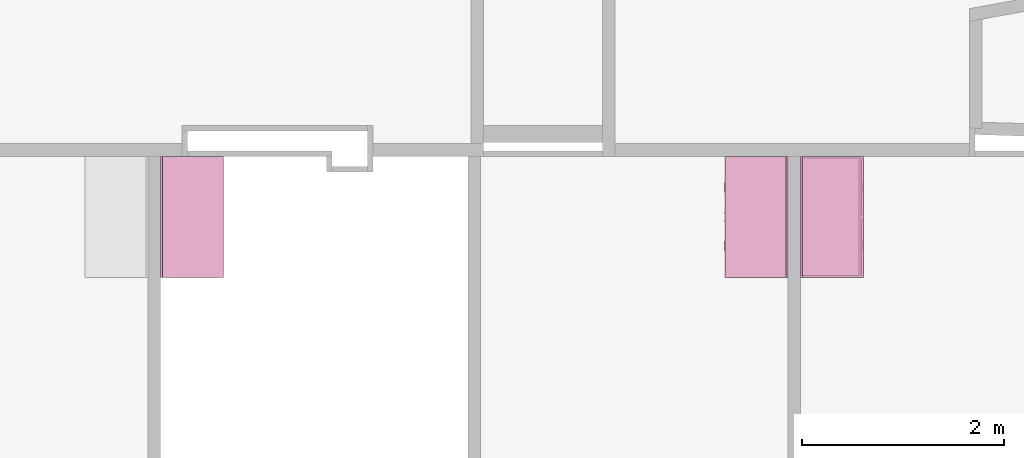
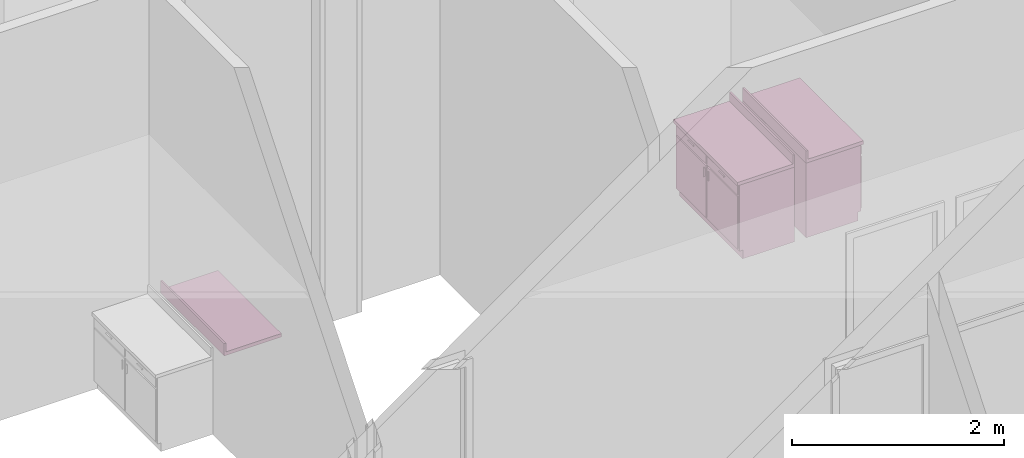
# One storey, part 82 of 87: 5 furnishings, 3 openings.
"""IFC2X3 building model written with IfcOpenShell, lengths in metres."""

import ifcopenshell
import ifcopenshell.guid

model = None  # the IFC model being written
_history = None  # IfcOwnerHistory: only IFC2X3 demands one
_inside = {}  # id of a spatial element -> (the spatial element, [elements in it])
_under = {}  # id of a project, library or spatial element -> (it, [spatial elements below it])
_declared = {}  # id of a project -> (the project, [libraries it declares])
_typed = {}  # id of a type object -> (the type object, [elements of that type])
_made_of = {}  # id of a material, layer set ... -> (it, [elements and type objects made of it])


def new_model(schema):
    """Start an empty IFC model of exactly this schema.

    Asked for "IFC4X3", IfcOpenShell would pick the latest addendum, in which some entities
    have other attributes; the version numbers below select the first issue.
    IFC2X3 requires an IfcOwnerHistory on every rooted entity: one is made here for all.
    """
    global model, _history
    if schema == "IFC4X3":
        model = ifcopenshell.file(schema_version=(4, 3, 0, 0))
    else:
        model = ifcopenshell.file(schema=schema)
    _inside.clear()
    _under.clear()
    _declared.clear()
    _typed.clear()
    _made_of.clear()
    _history = None
    if model.schema == "IFC2X3":
        org = make("IfcOrganization", Name="unknown")
        user = make(
            "IfcPersonAndOrganization",
            ThePerson=make("IfcPerson", FamilyName="unknown"),
            TheOrganization=org,
        )
        app = make(
            "IfcApplication",
            ApplicationDeveloper=org,
            Version="unknown",
            ApplicationFullName="unknown",
            ApplicationIdentifier="unknown",
        )
        _history = make(
            "IfcOwnerHistory",
            OwningUser=user,
            OwningApplication=app,
            ChangeAction="ADDED",
            CreationDate=0,
        )
    return model


def make(cls, **values):
    """One entity of the class cls with the attributes given. An attribute that is None is left unset."""
    return model.create_entity(
        cls, **{name: value for name, value in values.items() if value is not None}
    )


def entity(cls, *values):
    """Any entity or typed value of the class cls, its attributes in the order of the schema. None: left unset."""
    e = model.create_entity(cls)
    for i, value in enumerate(values):
        if value is not None:
            e[i] = value
    return e


def rooted(cls, **values):
    """An entity with a GlobalId (a new one), such as an element, a storey or a relation."""
    return make(cls, GlobalId=ifcopenshell.guid.new(), OwnerHistory=_history, **values)


def si_unit(unit_type, name, prefix=None):
    """IfcSIUnit, for example si_unit("LENGTHUNIT", "METRE", prefix="MILLI")."""
    return make("IfcSIUnit", UnitType=unit_type, Prefix=prefix, Name=name)


def converted_unit(unit_type, name, factor, base, dimensions=None, offset=None):
    """IfcConversionBasedUnit, such as the inch: factor (a typed value) times the base unit."""
    return make(
        "IfcConversionBasedUnit"
        if offset is None
        else "IfcConversionBasedUnitWithOffset",
        ConversionOffset=offset,
        Dimensions=None
        if dimensions is None
        else entity("IfcDimensionalExponents", *dimensions),
        UnitType=unit_type,
        Name=name,
        ConversionFactor=make(
            "IfcMeasureWithUnit", ValueComponent=factor, UnitComponent=base
        ),
    )


def assignment(units):
    """IfcUnitAssignment: the units of a project."""
    return None if units is None else make("IfcUnitAssignment", Units=units)


def point(xyz):
    """IfcCartesianPoint."""
    return None if xyz is None else make("IfcCartesianPoint", Coordinates=xyz)


def direction(xyz):
    """IfcDirection."""
    return None if xyz is None else make("IfcDirection", DirectionRatios=xyz)


def frame(location, z_axis=None, x_axis=None):
    """IfcAxis2Placement3D, a coordinate frame: its origin and axes. An axis left out is left unset."""
    return make(
        "IfcAxis2Placement3D",
        Location=point(location),
        Axis=direction(z_axis),
        RefDirection=direction(x_axis),
    )


def frame_2d(location, x_axis=None):
    """IfcAxis2Placement2D, a coordinate frame in the plane: its origin and x axis."""
    return make(
        "IfcAxis2Placement2D", Location=point(location), RefDirection=direction(x_axis)
    )


def origin():
    """The frame at (0, 0, 0) with its axes left unset."""
    return frame((0.0, 0.0, 0.0))


def place(relative_to, where):
    """IfcLocalPlacement: puts the frame where relative to a parent placement (None: the world)."""
    return make(
        "IfcLocalPlacement", PlacementRelTo=relative_to, RelativePlacement=where
    )


def context(
    kind, dimensions, precision=None, world=None, true_north=None, identifier=None
):
    """IfcGeometricRepresentationContext, for example the 3D "Model" context."""
    return make(
        "IfcGeometricRepresentationContext",
        ContextIdentifier=identifier,
        ContextType=kind,
        CoordinateSpaceDimension=dimensions,
        Precision=precision,
        WorldCoordinateSystem=world,
        TrueNorth=true_north,
    )


def project(units=None, contexts=None):
    """IfcProject with its units and contexts."""
    return rooted(
        "IfcProject",
        Name="project",
        RepresentationContexts=contexts,
        UnitsInContext=assignment(units),
    )


def spatial(cls, under=None, at=None, **own):
    """A site, building, storey or space (cls), placed at a placement, below another one or the project."""
    s = rooted(cls, ObjectPlacement=at, **own)
    if under is not None:
        _under.setdefault(under.id(), (under, []))[1].append(s)
    return s


def polyline(points):
    """IfcPolyline through the points."""
    return make("IfcPolyline", Points=[point(p) for p in points])


def circle_curve(where, radius):
    """IfcCircle in the frame where."""
    return make("IfcCircle", Position=where, Radius=radius)


def parameter(value):
    """IfcParameterValue: where a trimmed curve begins or ends, as a parameter of its basis curve."""
    return model.create_entity("IfcParameterValue", value)


def trimmed(basis, trim1, trim2, sense, master):
    """IfcTrimmedCurve: the piece of a basis curve between two trims."""
    return make(
        "IfcTrimmedCurve",
        BasisCurve=basis,
        Trim1=trim1,
        Trim2=trim2,
        SenseAgreement=sense,
        MasterRepresentation=master,
    )


def segment(curve, same_sense, transition):
    """IfcCompositeCurveSegment."""
    return make(
        "IfcCompositeCurveSegment",
        Transition=transition,
        SameSense=same_sense,
        ParentCurve=curve,
    )


def composite_curve(segments, self_intersect=None):
    """IfcCompositeCurve: segments joined end to end."""
    return make("IfcCompositeCurve", Segments=segments, SelfIntersect=self_intersect)


def outline(outer, holes=None, kind="AREA"):
    """IfcArbitraryClosedProfileDef: a profile drawn as a closed curve; with holes, ...WithVoids."""
    if holes is None:
        return make("IfcArbitraryClosedProfileDef", ProfileType=kind, OuterCurve=outer)
    return make(
        "IfcArbitraryProfileDefWithVoids",
        ProfileType=kind,
        OuterCurve=outer,
        InnerCurves=holes,
    )


def extrude(swept, where, along, depth):
    """IfcExtrudedAreaSolid: the profile swept, set in the frame where, extruded along a direction by depth."""
    return make(
        "IfcExtrudedAreaSolid",
        SweptArea=swept,
        Position=where,
        ExtrudedDirection=direction(along),
        Depth=depth,
    )


def faces_of(points, faces, orient=None, outer=None):
    """IfcFace entities. A face is a list of loops; a loop is a list of indices into points, from 0.

    orient and outer hold one flag for each loop. By default every Orientation is true, the
    first loop of a face is its IfcFaceOuterBound and the others are IfcFaceBound.
    """
    made = []
    for i, loops in enumerate(faces):
        bounds = []
        for j, loop in enumerate(loops):
            is_outer = j == 0 if outer is None else outer[i][j]
            bounds.append(
                make(
                    "IfcFaceOuterBound" if is_outer else "IfcFaceBound",
                    Bound=make("IfcPolyLoop", Polygon=[points[k] for k in loop]),
                    Orientation=True if orient is None else orient[i][j],
                )
            )
        made.append(make("IfcFace", Bounds=bounds))
    return made


def face_set(faces, orient=None, outer=None):
    """The faces of one IfcConnectedFaceSet. surface_model builds it on its shared points."""
    return ("IfcConnectedFaceSet", faces, orient, outer)


def surface_model(cls, points, shells):
    """IfcFaceBasedSurfaceModel or IfcShellBasedSurfaceModel (cls): surfaces that need not close."""
    shared = [point(p) for p in points]
    made = [make(c, CfsFaces=faces_of(shared, fs, o, b)) for c, fs, o, b in shells]
    if cls == "IfcFaceBasedSurfaceModel":
        return make(cls, FbsmFaces=made)
    return make(cls, SbsmBoundary=made)


def shape(context_of_items, identifier, shape_type, items):
    """IfcShapeRepresentation: the items that make up one representation, for example the "Body"."""
    return make(
        "IfcShapeRepresentation",
        ContextOfItems=context_of_items,
        RepresentationIdentifier=identifier,
        RepresentationType=shape_type,
        Items=items,
    )


def source(mapping_origin, context_of_items, identifier, shape_type, items):
    """IfcRepresentationMap: a shape defined once, which mapped items show again and again."""
    return make(
        "IfcRepresentationMap",
        MappingOrigin=mapping_origin,
        MappedRepresentation=shape(context_of_items, identifier, shape_type, items),
    )


def transform(
    local_origin,
    x_axis=None,
    y_axis=None,
    z_axis=None,
    scale=None,
    scale2=None,
    scale3=None,
    uniform=True,
):
    """IfcCartesianTransformationOperator3D, or its non-uniform kind. x_axis, y_axis, z_axis: its Axis1, 2, 3."""
    if uniform:
        return make(
            "IfcCartesianTransformationOperator3D",
            Axis1=direction(x_axis),
            Axis2=direction(y_axis),
            LocalOrigin=point(local_origin),
            Scale=scale,
            Axis3=direction(z_axis),
        )
    return make(
        "IfcCartesianTransformationOperator3DnonUniform",
        Axis1=direction(x_axis),
        Axis2=direction(y_axis),
        LocalOrigin=point(local_origin),
        Scale=scale,
        Axis3=direction(z_axis),
        Scale2=scale2,
        Scale3=scale3,
    )


def mapped(mapping_source, mapping_target):
    """IfcMappedItem: shows the shape of a source again, moved by a transform."""
    return make(
        "IfcMappedItem", MappingSource=mapping_source, MappingTarget=mapping_target
    )


def made_of(thing, what):
    """Note that an element or type object is made of a material, layer set ...; save() writes the relation."""
    if what is not None:
        _made_of.setdefault(what.id(), (what, []))[1].append(thing)
    return thing


def type_object(cls, material=None, **own):
    """A type object (cls), such as IfcWallType, which elements share."""
    return made_of(rooted(cls, **own), material)


def type_shapes(of_type, sources):
    """Give a type object the sources (RepresentationMaps) that its elements show as mapped items."""
    of_type.RepresentationMaps = sources


def element(
    cls,
    number,
    at=None,
    inside=None,
    cuts=None,
    type_object=None,
    material=None,
    context=None,
    identifier="Body",
    shape_type=None,
    held_by="IfcProductDefinitionShape",
    body=None,
    shapes=None,
    **own,
):
    """One element of the class cls, such as IfcWall. Its Tag is "e" and its number.

    at: its placement. inside: the storey or other place that contains it. cuts: it is an
    opening in that element (IfcRelVoidsElement). A single representation is given by context,
    identifier, shape_type and body (its items); several are given by shapes. held_by: the class
    of the entity that holds the representations. save() writes the other relations.
    """
    e = rooted(cls, Tag="e%d" % number, ObjectPlacement=at, **own)
    if body is not None:
        shapes = [shape(context, identifier, shape_type, body)]
    if shapes is not None:
        e.Representation = make(held_by, Representations=shapes)
    if inside is not None:
        _inside.setdefault(inside.id(), (inside, []))[1].append(e)
    if cuts is not None:
        rooted(
            "IfcRelVoidsElement", RelatingBuildingElement=cuts, RelatedOpeningElement=e
        )
    if type_object is not None:
        _typed.setdefault(type_object.id(), (type_object, []))[1].append(e)
    return made_of(e, material)


def aggregate(whole, parts):
    """IfcRelAggregates: a whole, such as a stair, and the parts it consists of."""
    return rooted("IfcRelAggregates", RelatingObject=whole, RelatedObjects=parts)


def save(model, path):
    """Write the relations noted so far, then the file.

    IfcRelAggregates (storeys below a building ...), IfcRelContainedInSpatialStructure (elements
    in a storey), IfcRelDefinesByType, IfcRelAssociatesMaterial and IfcRelDeclares: one each for
    every whole, place, type object, material and project.
    """
    for whole, parts in _under.values():
        aggregate(whole, parts)
    for where, things in _inside.values():
        rooted(
            "IfcRelContainedInSpatialStructure",
            RelatedElements=things,
            RelatingStructure=where,
        )
    for kind, things in _typed.values():
        rooted("IfcRelDefinesByType", RelatedObjects=things, RelatingType=kind)
    for what, things in _made_of.values():
        rooted("IfcRelAssociatesMaterial", RelatedObjects=things, RelatingMaterial=what)
    for by, libraries in _declared.values():
        rooted("IfcRelDeclares", RelatingContext=by, RelatedDefinitions=libraries)
    model.write(path)


model = new_model("IFC2X3")

# Units and contexts
model_context = context("Model", 3, precision=1e-09, world=origin())
plan_context = context("Plan", 3, precision=1e-09, world=origin())
ifc_project = project(units=[si_unit("LENGTHUNIT", "METRE"), si_unit("AREAUNIT", "SQUARE_METRE"), si_unit("VOLUMEUNIT", "CUBIC_METRE"), converted_unit("PLANEANGLEUNIT", "DEGREE", entity("IfcRatioMeasure", 0.01745329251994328), si_unit("PLANEANGLEUNIT", "RADIAN"), dimensions=[0, 0, 0, 0, 0, 0, 0]), si_unit("TIMEUNIT", "SECOND")], contexts=[model_context, plan_context])

# Site, building, storey, space
site_placement = place(None, origin())
site = spatial("IfcSite", under=ifc_project, at=site_placement, Name="Default", CompositionType="ELEMENT")
building_placement = place(site_placement, origin())
building = spatial("IfcBuilding", under=site, at=building_placement, CompositionType="ELEMENT")
storey_placement = place(building_placement, origin())
storey = spatial("IfcBuildingStorey", under=building, at=storey_placement, Name="First Floor", CompositionType="ELEMENT", Elevation=-3.531500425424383e-13)
space_1_placement = place(storey_placement, origin())
space_1 = spatial("IfcSpace", under=storey, at=space_1_placement, Name="1D07", CompositionType="ELEMENT", InteriorOrExteriorSpace="INTERNAL")

# Furnishing
furniture_type_1 = type_object("IfcFurnitureType", Name="1200mm", AssemblyPlace="NOTDEFINED")
shared_shape_1 = source(origin(), model_context, "Body", "SurfaceModel", [
    surface_model("IfcFaceBasedSurfaceModel", [(1.180949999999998, 0.04445000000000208, 0.86000000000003), (1.180949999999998, 0.04445000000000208, 0.09999999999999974), (0.01905000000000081, 0.04445000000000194, 0.09999999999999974), (0.01905000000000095, 0.04445000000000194, 0.86000000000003), (1.2, 0.02540000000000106, 0.8600000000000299), (0.0, 0.02540000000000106, 0.8600000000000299), (1.2, 0.02540000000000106, 0.09999999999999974), (0.0, 0.02540000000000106, 0.0999999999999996), (0.01905000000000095, 0.6063499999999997, 0.86000000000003), (0.01905000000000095, 0.6063499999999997, 0.09999999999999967), (0.01905000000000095, 0.06040000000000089, 0.09999999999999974), (0.0, 0.6254000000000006, 0.8600000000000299), (0.0, 0.6254000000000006, 0.0), (0.0, 0.06040000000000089, 0.0), (0.0, 0.06040000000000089, 0.09999999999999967), (1.180949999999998, 0.6063499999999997, 0.86000000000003), (1.180949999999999, 0.6063499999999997, 0.09999999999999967), (1.2, 0.6254000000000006, 0.8600000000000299), (1.2, 0.6254000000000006, 0.0), (1.180949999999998, 0.06040000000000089, 0.09999999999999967), (1.2, 0.06040000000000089, 0.09999999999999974), (1.2, 0.06040000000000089, 0.0), (0.3603250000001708, 0.0, 0.8155500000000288), (0.3603250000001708, 0.0, 0.8028500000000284), (0.258725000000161, 0.0, 0.8028500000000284), (0.258725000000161, 0.0, 0.8155500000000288), (0.9412750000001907, 0.0, 0.8155500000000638), (0.9412750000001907, 0.0, 0.8028500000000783), (0.8396750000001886, 0.0, 0.8028500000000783), (0.8396750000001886, 0.0, 0.8155500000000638), (0.5650750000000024, 0.0, 0.6822000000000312), (0.5650750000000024, 0.0, 0.5806000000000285), (0.5523750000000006, 0.0, 0.5806000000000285), (0.5523750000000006, 0.0, 0.6822000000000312), (0.6476249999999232, 0.0, 0.6822000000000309), (0.6476249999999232, 0.0, 0.5806000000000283), (0.6349249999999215, 0.0, 0.5806000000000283), (0.6349249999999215, 0.0, 0.6822000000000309), (0.3603250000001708, 0.01270000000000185, 0.8155500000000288), (0.3603250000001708, 0.01270000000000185, 0.8028500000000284), (0.2587250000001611, 0.01270000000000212, 0.8028500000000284), (0.2587250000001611, 0.01270000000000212, 0.8155500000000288), (0.9412750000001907, 0.01269999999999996, 0.8155500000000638), (0.9412750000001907, 0.01269999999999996, 0.8028500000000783), (0.8396750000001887, 0.01270000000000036, 0.8028500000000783), (0.8396750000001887, 0.01270000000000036, 0.8155500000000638), (0.5650750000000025, 0.01270000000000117, 0.6822000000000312), (0.5650750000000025, 0.01270000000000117, 0.5806000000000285), (0.5523750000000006, 0.01270000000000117, 0.5806000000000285), (0.5523750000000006, 0.01270000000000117, 0.6822000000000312), (0.6476249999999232, 0.0127000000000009, 0.6822000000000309), (0.6476249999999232, 0.0127000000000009, 0.5806000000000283), (0.6349249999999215, 0.0127000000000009, 0.5806000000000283), (0.6349249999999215, 0.0127000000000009, 0.6822000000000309), (0.5904749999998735, 0.01270000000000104, 0.8409500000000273), (0.5904749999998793, 0.01270000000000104, 0.7393500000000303), (0.01905000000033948, 0.0127000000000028, 0.7393500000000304), (0.01905000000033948, 0.0127000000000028, 0.8409500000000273), (1.180950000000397, 0.01269999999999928, 0.8409500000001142), (1.180950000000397, 0.01269999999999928, 0.7393500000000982), (0.6095249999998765, 0.01270000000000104, 0.7393500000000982), (0.6095249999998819, 0.01270000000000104, 0.8409500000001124), (0.5904749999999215, 0.01270000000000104, 0.7203000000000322), (0.5904749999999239, 0.01270000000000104, 0.1190499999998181), (0.01905000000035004, 0.0127000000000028, 0.1190499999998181), (0.01905000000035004, 0.0127000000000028, 0.7203000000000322), (1.180950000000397, 0.01269999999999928, 0.7203000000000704), (1.180950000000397, 0.01269999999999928, 0.1190499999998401), (0.6095249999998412, 0.01270000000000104, 0.1190499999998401), (0.6095249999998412, 0.01270000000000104, 0.7203000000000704), (0.5904749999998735, 0.02540000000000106, 0.8409500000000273), (0.5904749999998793, 0.02540000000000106, 0.7393500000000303), (0.01905000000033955, 0.02540000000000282, 0.7393500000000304), (0.01905000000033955, 0.02540000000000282, 0.8409500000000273), (1.180950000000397, 0.02539999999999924, 0.8409500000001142), (1.180950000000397, 0.02539999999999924, 0.7393500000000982), (0.6095249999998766, 0.025400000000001, 0.7393500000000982), (0.6095249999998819, 0.025400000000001, 0.8409500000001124), (0.5904749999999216, 0.02540000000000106, 0.7203000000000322), (0.5904749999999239, 0.02540000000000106, 0.1190499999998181), (0.01905000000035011, 0.02540000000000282, 0.1190499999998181), (0.01905000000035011, 0.02540000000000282, 0.7203000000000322), (1.180950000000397, 0.02539999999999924, 0.7203000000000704), (1.180950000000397, 0.02539999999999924, 0.1190499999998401), (0.6095249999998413, 0.025400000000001, 0.1190499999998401), (0.6095249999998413, 0.025400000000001, 0.7203000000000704), (1.180949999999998, 0.6063499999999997, 0.1190499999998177), (1.180949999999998, 0.04445000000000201, 0.1190499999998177), (0.01905000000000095, 0.04445000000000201, 0.1190499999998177), (0.01905000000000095, 0.6063499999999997, 0.1190499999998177), (1.180949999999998, 0.6063499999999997, 0.09999999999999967), (1.180949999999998, 0.04445000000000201, 0.09999999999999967), (0.01905000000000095, 0.04445000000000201, 0.09999999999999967), (0.01905000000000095, 0.6063499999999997, 0.09999999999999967)], [face_set([[[0, 1, 2, 3]], [[0, 4, 5, 3]], [[4, 6, 7, 5]], [[2, 1, 6, 7]], [[3, 8, 9, 10, 2]], [[5, 11, 8, 3]], [[7, 5, 11, 12, 13, 14]], [[2, 7, 14, 10]], [[8, 15, 16, 9]], [[11, 17, 15, 8]], [[12, 11, 17, 18]], [[1, 19, 16, 15, 0]], [[0, 15, 17, 4]], [[4, 6, 20, 21, 18, 17]], [[6, 1, 19, 20]], [[10, 9, 16, 19]], [[18, 21, 13, 12]], [[13, 14, 10, 19, 20, 21]]]), face_set([[[22, 23, 24, 25]], [[26, 27, 28, 29]], [[30, 31, 32, 33]], [[34, 35, 36, 37]], [[38, 39, 40, 41]], [[42, 43, 44, 45]], [[46, 47, 48, 49]], [[50, 51, 52, 53]], [[25, 41, 38, 22]], [[24, 40, 41, 25]], [[23, 24, 40, 39]], [[22, 23, 39, 38]], [[29, 45, 42, 26]], [[28, 44, 45, 29]], [[27, 28, 44, 43]], [[26, 27, 43, 42]], [[33, 49, 46, 30]], [[32, 48, 49, 33]], [[31, 32, 48, 47]], [[30, 31, 47, 46]], [[37, 53, 50, 34]], [[36, 52, 53, 37]], [[35, 36, 52, 51]], [[34, 35, 51, 50]]]), face_set([[[54, 55, 56, 57]], [[58, 59, 60, 61]], [[62, 63, 64, 65]], [[66, 67, 68, 69]], [[70, 71, 72, 73]], [[74, 75, 76, 77]], [[78, 79, 80, 81]], [[82, 83, 84, 85]], [[57, 73, 70, 54]], [[56, 57, 73, 72]], [[55, 56, 72, 71]], [[54, 55, 71, 70]], [[61, 77, 74, 58]], [[60, 76, 77, 61]], [[59, 60, 76, 75]], [[58, 59, 75, 74]], [[65, 81, 78, 62]], [[64, 65, 81, 80]], [[63, 64, 80, 79]], [[62, 63, 79, 78]], [[69, 85, 82, 66]], [[68, 84, 85, 69]], [[67, 68, 84, 83]], [[66, 67, 83, 82]]]), face_set([[[86, 87, 88, 89]], [[90, 91, 92, 93]], [[89, 86, 90, 93]], [[88, 89, 93, 92]], [[87, 91, 92, 88]], [[86, 87, 91, 90]]])]),
])
type_shapes(furniture_type_1, [shared_shape_1])
furnishing_1_placement = place(space_1_placement, frame((-28.46084908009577, 43.50599999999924, 0.0), z_axis=(0.0, 0.0, 1.0), x_axis=(0.0, 1.0, 0.0)))
element("IfcFurnishingElement", 1, at=furnishing_1_placement, inside=space_1, type_object=furniture_type_1, Name="M_Base Cabinet-Double Door & 2 Drawer:1200mm:1200mm", ObjectType="1200mm", context=model_context, shape_type="MappedRepresentation", body=[
    mapped(shared_shape_1, transform((0.0, 0.0, 0.0), scale=1.0)),
])

# Space
space_2_placement = place(storey_placement, origin())
space_2 = spatial("IfcSpace", under=storey, at=space_2_placement, Name="1D09", CompositionType="ELEMENT", InteriorOrExteriorSpace="INTERNAL")

# Furnishing
furniture_type_2 = type_object("IfcFurnitureType", Name="1200mm", AssemblyPlace="NOTDEFINED")
shared_shape_2 = source(origin(), model_context, "Body", "SurfaceModel", [
    surface_model("IfcFaceBasedSurfaceModel", [(1.180949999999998, 0.5809499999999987, 0.8600000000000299), (0.01905000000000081, 0.5809499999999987, 0.8600000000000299), (0.01905000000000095, 0.5809499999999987, 0.09999999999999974), (1.180949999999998, 0.5809499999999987, 0.09999999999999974), (0.0, 0.5999999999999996, 0.8600000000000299), (1.2, 0.5999999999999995, 0.8600000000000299), (0.0, 0.5999999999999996, 0.09999999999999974), (1.2, 0.5999999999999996, 0.0999999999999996), (0.01905000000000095, 0.5649999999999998, 0.09999999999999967), (0.01905000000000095, 0.019050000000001, 0.09999999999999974), (0.01905000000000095, 0.019050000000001, 0.8600000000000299), (0.0, 0.0, 0.8600000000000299), (0.0, 0.0, 0.0), (0.0, 0.5649999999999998, 0.0), (0.0, 0.5649999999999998, 0.09999999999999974), (1.180949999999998, 0.01905000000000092, 0.09999999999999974), (1.180949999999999, 0.01905000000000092, 0.8600000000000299), (1.2, 0.0, 0.8600000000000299), (1.2, 0.0, 0.0), (1.180949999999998, 0.5649999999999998, 0.09999999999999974), (1.2, 0.5649999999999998, 0.0), (1.2, 0.5649999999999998, 0.0999999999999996), (0.3603250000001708, 0.6253999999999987, 0.8155500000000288), (0.258725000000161, 0.6253999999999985, 0.8155500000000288), (0.2587250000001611, 0.6253999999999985, 0.8028500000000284), (0.3603250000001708, 0.6253999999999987, 0.8028500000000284), (0.9412750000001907, 0.6254000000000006, 0.8155500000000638), (0.8396750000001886, 0.6254000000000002, 0.8155500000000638), (0.8396750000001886, 0.6254000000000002, 0.8028500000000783), (0.9412750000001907, 0.6254000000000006, 0.8028500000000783), (0.5650750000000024, 0.6253999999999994, 0.6822000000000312), (0.5523750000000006, 0.6253999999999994, 0.6822000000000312), (0.5523750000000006, 0.6253999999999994, 0.5806000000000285), (0.5650750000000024, 0.6253999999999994, 0.5806000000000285), (0.6476249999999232, 0.6253999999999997, 0.6822000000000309), (0.6349249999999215, 0.6253999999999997, 0.6822000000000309), (0.6349249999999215, 0.6253999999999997, 0.5806000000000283), (0.6476249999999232, 0.6253999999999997, 0.5806000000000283), (0.3603250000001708, 0.6126999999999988, 0.8155500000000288), (0.2587250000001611, 0.6126999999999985, 0.8155500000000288), (0.2587250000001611, 0.6126999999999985, 0.8028500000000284), (0.3603250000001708, 0.6126999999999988, 0.8028500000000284), (0.9412750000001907, 0.6127000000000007, 0.8155500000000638), (0.8396750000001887, 0.6127000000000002, 0.8155500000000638), (0.8396750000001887, 0.6127000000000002, 0.8028500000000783), (0.9412750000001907, 0.6127000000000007, 0.8028500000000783), (0.5650750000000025, 0.6126999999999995, 0.6822000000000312), (0.5523750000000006, 0.6126999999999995, 0.6822000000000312), (0.5523750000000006, 0.6126999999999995, 0.5806000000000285), (0.5650750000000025, 0.6126999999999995, 0.5806000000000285), (0.6476249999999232, 0.6126999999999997, 0.6822000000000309), (0.6349249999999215, 0.6126999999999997, 0.6822000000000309), (0.6349249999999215, 0.6126999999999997, 0.5806000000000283), (0.6476249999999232, 0.6126999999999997, 0.5806000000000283), (0.5904749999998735, 0.6126999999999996, 0.8409500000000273), (0.01905000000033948, 0.6126999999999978, 0.8409500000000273), (0.01905000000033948, 0.6126999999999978, 0.7393500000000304), (0.5904749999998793, 0.6126999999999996, 0.7393500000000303), (1.180950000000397, 0.6127000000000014, 0.8409500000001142), (0.6095249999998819, 0.6126999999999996, 0.8409500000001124), (0.6095249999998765, 0.6126999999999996, 0.7393500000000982), (1.180950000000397, 0.6127000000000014, 0.7393500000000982), (0.5904749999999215, 0.6126999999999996, 0.7203000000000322), (0.01905000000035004, 0.6126999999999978, 0.7203000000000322), (0.01905000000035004, 0.6126999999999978, 0.1190499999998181), (0.5904749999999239, 0.6126999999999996, 0.1190499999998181), (1.180950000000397, 0.6127000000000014, 0.7203000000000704), (0.6095249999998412, 0.6126999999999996, 0.7203000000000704), (0.6095249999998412, 0.6126999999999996, 0.1190499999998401), (1.180950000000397, 0.6127000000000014, 0.1190499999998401), (0.5904749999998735, 0.5999999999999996, 0.8409500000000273), (0.01905000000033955, 0.5999999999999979, 0.8409500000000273), (0.01905000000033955, 0.5999999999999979, 0.7393500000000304), (0.5904749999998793, 0.5999999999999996, 0.7393500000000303), (1.180950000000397, 0.6000000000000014, 0.8409500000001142), (0.6095249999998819, 0.5999999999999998, 0.8409500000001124), (0.6095249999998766, 0.5999999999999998, 0.7393500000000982), (1.180950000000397, 0.6000000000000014, 0.7393500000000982), (0.5904749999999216, 0.5999999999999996, 0.7203000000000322), (0.01905000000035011, 0.5999999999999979, 0.7203000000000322), (0.01905000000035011, 0.5999999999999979, 0.1190499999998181), (0.5904749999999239, 0.5999999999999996, 0.1190499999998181), (1.180950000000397, 0.6000000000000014, 0.7203000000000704), (0.6095249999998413, 0.5999999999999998, 0.7203000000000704), (0.6095249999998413, 0.5999999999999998, 0.1190499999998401), (1.180950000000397, 0.6000000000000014, 0.1190499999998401), (1.180949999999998, 0.019050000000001, 0.1190499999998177), (0.01905000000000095, 0.019050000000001, 0.1190499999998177), (0.01905000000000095, 0.5809499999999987, 0.1190499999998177), (1.180949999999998, 0.5809499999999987, 0.1190499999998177), (1.180949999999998, 0.01905000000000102, 0.09999999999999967), (0.01905000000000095, 0.019050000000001, 0.09999999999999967), (0.01905000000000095, 0.5809499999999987, 0.09999999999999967), (1.180949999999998, 0.5809499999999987, 0.09999999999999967)], [face_set([[[0, 1, 2, 3]], [[0, 1, 4, 5]], [[5, 4, 6, 7]], [[2, 6, 7, 3]], [[1, 2, 8, 9, 10]], [[4, 1, 10, 11]], [[6, 4, 11, 12, 13, 14]], [[2, 8, 14, 6]], [[10, 9, 15, 16]], [[11, 10, 16, 17]], [[12, 18, 17, 11]], [[3, 0, 16, 15, 19]], [[0, 5, 17, 16]], [[5, 17, 18, 20, 21, 7]], [[7, 21, 19, 3]], [[8, 19, 15, 9]], [[18, 12, 13, 20]], [[13, 20, 21, 19, 8, 14]]]), face_set([[[22, 23, 24, 25]], [[26, 27, 28, 29]], [[30, 31, 32, 33]], [[34, 35, 36, 37]], [[38, 39, 40, 41]], [[42, 43, 44, 45]], [[46, 47, 48, 49]], [[50, 51, 52, 53]], [[23, 22, 38, 39]], [[24, 23, 39, 40]], [[25, 41, 40, 24]], [[22, 38, 41, 25]], [[27, 26, 42, 43]], [[28, 27, 43, 44]], [[29, 45, 44, 28]], [[26, 42, 45, 29]], [[31, 30, 46, 47]], [[32, 31, 47, 48]], [[33, 49, 48, 32]], [[30, 46, 49, 33]], [[35, 34, 50, 51]], [[36, 35, 51, 52]], [[37, 53, 52, 36]], [[34, 50, 53, 37]]]), face_set([[[54, 55, 56, 57]], [[58, 59, 60, 61]], [[62, 63, 64, 65]], [[66, 67, 68, 69]], [[70, 71, 72, 73]], [[74, 75, 76, 77]], [[78, 79, 80, 81]], [[82, 83, 84, 85]], [[55, 54, 70, 71]], [[56, 72, 71, 55]], [[57, 73, 72, 56]], [[54, 70, 73, 57]], [[59, 58, 74, 75]], [[60, 59, 75, 76]], [[61, 77, 76, 60]], [[58, 74, 77, 61]], [[63, 62, 78, 79]], [[64, 80, 79, 63]], [[65, 81, 80, 64]], [[62, 78, 81, 65]], [[67, 66, 82, 83]], [[68, 67, 83, 84]], [[69, 85, 84, 68]], [[66, 82, 85, 69]]]), face_set([[[86, 87, 88, 89]], [[90, 91, 92, 93]], [[87, 91, 90, 86]], [[88, 92, 91, 87]], [[89, 88, 92, 93]], [[86, 90, 93, 89]]])]),
])
type_shapes(furniture_type_2, [shared_shape_2])
furnishing_2_placement = place(space_2_placement, frame((-29.20975091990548, 43.50599999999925, 0.0), z_axis=(0.0, 0.0, 1.0), x_axis=(0.0, 1.0, 0.0)))
element("IfcFurnishingElement", 2, at=furnishing_2_placement, inside=space_2, type_object=furniture_type_2, Name="M_Base Cabinet-Double Door & 2 Drawer:1200mm:1200mm", ObjectType="1200mm", context=model_context, shape_type="MappedRepresentation", body=[
    mapped(shared_shape_2, transform((0.0, 0.0, 0.0), scale=1.0)),
])

# Space
space_3_placement = place(storey_placement, origin())
space_3 = spatial("IfcSpace", under=storey, at=space_3_placement, Name="1D11", CompositionType="ELEMENT", InteriorOrExteriorSpace="INTERNAL")

# Furnishing, opening
furniture_type_3 = type_object("IfcFurnitureType", Name="600mm Depth", AssemblyPlace="NOTDEFINED")
shared_shape_3 = source(origin(), model_context, "Body", "SweptSolid", [
    extrude(outline(polyline([(-0.0605333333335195, -0.2146833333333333), (0.08106666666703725, -0.2146833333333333), (0.08106666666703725, -0.1956333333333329), (-0.02053333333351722, -0.1956333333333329), (-0.02053333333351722, 0.4103166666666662), (-0.0605333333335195, 0.4103166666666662), (-0.0605333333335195, -0.2146833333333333)])), frame((-1.200462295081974, -0.2146833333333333, 0.920533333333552), z_axis=(1.0, 0.0, 0.0), x_axis=(0.0, 0.0, 1.0)), (0.0, 0.0, 1.0), 1.200000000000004),
])
type_shapes(furniture_type_3, [shared_shape_3])
furnishing_3_placement = place(space_3_placement, frame((-35.42600000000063, 44.70646229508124, 0.0), z_axis=(0.0, 0.0, 1.0), x_axis=(0.0, 1.0, 0.0)))
furnishing_3 = element("IfcFurnishingElement", 3, at=furnishing_3_placement, inside=space_3, type_object=furniture_type_3, Name="M_Counter Top w Sink Hole:600mm Depth:600mm Depth", ObjectType="600mm Depth", context=model_context, shape_type="MappedRepresentation", body=[
    mapped(shared_shape_3, transform((0.0, 0.0, 0.0), scale=1.0)),
])
opening_1_placement = place(space_3_placement, frame((-35.42600000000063, 44.70646229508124, 0.0), z_axis=(0.0, 0.0, 1.0), x_axis=(0.0, 1.0, 0.0)))
element("IfcOpeningElement", 4, at=opening_1_placement, cuts=furnishing_3, Name="M_Counter Top w Sink Hole:600mm Depth:600mm Depth:1", ObjectType="Opening", context=model_context, shape_type="SweptSolid", body=[
    extrude(outline(composite_curve([segment(polyline([(-0.255399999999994, -0.2083292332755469), (0.2554000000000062, -0.2083292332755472)]), True, "CONTINUOUS"), segment(trimmed(circle_curve(frame_2d((0.2554000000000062, -0.1575292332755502), x_axis=(-1.0, 0.0)), 0.05079999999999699), [parameter(89.99999999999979)], [parameter(180.0000000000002)], True, "PARAMETER"), True, "CONTINUOUS"), segment(polyline([(0.3062000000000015, -0.1575292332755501), (0.3062000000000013, 0.1575292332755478)]), True, "CONTINUOUS"), segment(trimmed(circle_curve(frame_2d((0.2554000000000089, 0.1575292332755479), x_axis=(-1.0, 0.0)), 0.0507999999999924), [parameter(179.9999999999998)], [parameter(269.9999999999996)], True, "PARAMETER"), True, "CONTINUOUS"), segment(polyline([(0.2554000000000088, 0.2083292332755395), (-0.2554000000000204, 0.2083292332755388)]), True, "CONTINUOUS"), segment(trimmed(circle_curve(frame_2d((-0.2554000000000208, 0.1575292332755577), x_axis=(-1.0, 0.0)), 0.05079999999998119), [parameter(269.9999999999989)], [parameter(359.9999999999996)], True, "PARAMETER"), True, "CONTINUOUS"), segment(polyline([(-0.3062000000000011, 0.1575292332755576), (-0.306200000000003, -0.1575292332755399)]), True, "CONTINUOUS"), segment(trimmed(circle_curve(frame_2d((-0.2553999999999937, -0.1575292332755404), x_axis=(-1.0, 0.0)), 0.05080000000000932), [parameter(359.9999999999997)], [parameter(90.00000000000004)], True, "PARAMETER"), True, "CONTINUOUS")], self_intersect=False)), frame((-0.3653589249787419, 0.6004622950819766, 0.8600000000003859), z_axis=(0.0, 0.0, 1.0), x_axis=(0.0, 1.0, 0.0)), (0.0, 0.0, 1.0), 0.04000000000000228),
])

furniture_type_4 = type_object("IfcFurnitureType", Name="600mm Depth", AssemblyPlace="NOTDEFINED")
shared_shape_4 = source(origin(), model_context, "Body", "SweptSolid", [
    extrude(outline(polyline([(-0.0605333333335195, -0.2146833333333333), (0.08106666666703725, -0.2146833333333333), (0.08106666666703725, -0.1956333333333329), (-0.02053333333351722, -0.1956333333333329), (-0.02053333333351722, 0.4103166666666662), (-0.0605333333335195, 0.4103166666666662), (-0.0605333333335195, -0.2146833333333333)])), frame((-1.200462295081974, -0.2146833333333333, 0.920533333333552), z_axis=(1.0, 0.0, 0.0), x_axis=(0.0, 0.0, 1.0)), (0.0, 0.0, 1.0), 1.200000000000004),
])
type_shapes(furniture_type_4, [shared_shape_4])
furnishing_4_placement = place(space_1_placement, frame((-29.08600000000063, 44.70646229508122, 0.0), z_axis=(0.0, 0.0, 1.0), x_axis=(0.0, 1.0, 0.0)))
furnishing_4 = element("IfcFurnishingElement", 5, at=furnishing_4_placement, inside=space_1, type_object=furniture_type_4, Name="M_Counter Top w Sink Hole:600mm Depth:600mm Depth", ObjectType="600mm Depth", context=model_context, shape_type="MappedRepresentation", body=[
    mapped(shared_shape_4, transform((0.0, 0.0, 0.0), scale=1.0)),
])
opening_2_placement = place(space_1_placement, frame((-29.08600000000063, 44.70646229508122, 0.0), z_axis=(0.0, 0.0, 1.0), x_axis=(0.0, 1.0, 0.0)))
element("IfcOpeningElement", 6, at=opening_2_placement, cuts=furnishing_4, Name="M_Counter Top w Sink Hole:600mm Depth:600mm Depth:1", ObjectType="Opening", context=model_context, shape_type="SweptSolid", body=[
    extrude(outline(composite_curve([segment(polyline([(-0.255399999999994, -0.2083292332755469), (0.2554000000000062, -0.2083292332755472)]), True, "CONTINUOUS"), segment(trimmed(circle_curve(frame_2d((0.2554000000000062, -0.1575292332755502), x_axis=(-1.0, 0.0)), 0.05079999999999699), [parameter(89.99999999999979)], [parameter(180.0000000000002)], True, "PARAMETER"), True, "CONTINUOUS"), segment(polyline([(0.3062000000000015, -0.1575292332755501), (0.3062000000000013, 0.1575292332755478)]), True, "CONTINUOUS"), segment(trimmed(circle_curve(frame_2d((0.2554000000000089, 0.1575292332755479), x_axis=(-1.0, 0.0)), 0.0507999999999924), [parameter(179.9999999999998)], [parameter(269.9999999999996)], True, "PARAMETER"), True, "CONTINUOUS"), segment(polyline([(0.2554000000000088, 0.2083292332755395), (-0.2554000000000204, 0.2083292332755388)]), True, "CONTINUOUS"), segment(trimmed(circle_curve(frame_2d((-0.2554000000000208, 0.1575292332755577), x_axis=(-1.0, 0.0)), 0.05079999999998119), [parameter(269.9999999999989)], [parameter(359.9999999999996)], True, "PARAMETER"), True, "CONTINUOUS"), segment(polyline([(-0.3062000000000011, 0.1575292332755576), (-0.306200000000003, -0.1575292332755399)]), True, "CONTINUOUS"), segment(trimmed(circle_curve(frame_2d((-0.2553999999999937, -0.1575292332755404), x_axis=(-1.0, 0.0)), 0.05080000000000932), [parameter(359.9999999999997)], [parameter(90.00000000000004)], True, "PARAMETER"), True, "CONTINUOUS")], self_intersect=False)), frame((-0.3653589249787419, 0.6004622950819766, 0.8600000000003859), z_axis=(0.0, 0.0, 1.0), x_axis=(0.0, 1.0, 0.0)), (0.0, 0.0, 1.0), 0.04000000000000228),
])

furniture_type_5 = type_object("IfcFurnitureType", Name="600mm Depth", AssemblyPlace="NOTDEFINED")
shared_shape_5 = source(origin(), model_context, "Body", "SweptSolid", [
    extrude(outline(polyline([(-0.2146833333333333, -0.06053333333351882), (0.4103166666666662, -0.06053333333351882), (0.4103166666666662, -0.02053333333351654), (-0.1956333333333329, -0.02053333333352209), (-0.1956333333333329, 0.08106666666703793), (-0.2146833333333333, 0.08106666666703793), (-0.2146833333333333, -0.06053333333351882)])), frame((-1.200462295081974, 0.2146833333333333, 0.9205333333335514), z_axis=(1.0, 0.0, 0.0), x_axis=(0.0, 1.0, 0.0)), (0.0, 0.0, 1.0), 1.200000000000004),
])
type_shapes(furniture_type_5, [shared_shape_5])
furnishing_5_placement = place(space_2_placement, frame((-29.21000000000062, 44.70646229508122, 0.0), z_axis=(0.0, 0.0, 1.0), x_axis=(0.0, 1.0, 0.0)))
furnishing_5 = element("IfcFurnishingElement", 7, at=furnishing_5_placement, inside=space_2, type_object=furniture_type_5, Name="M_Counter Top w Sink Hole:600mm Depth:600mm Depth", ObjectType="600mm Depth", context=model_context, shape_type="MappedRepresentation", body=[
    mapped(shared_shape_5, transform((0.0, 0.0, 0.0), scale=1.0)),
])
opening_3_placement = place(space_2_placement, frame((-29.21000000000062, 44.70646229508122, 0.0), z_axis=(0.0, 0.0, 1.0), x_axis=(0.0, 1.0, 0.0)))
element("IfcOpeningElement", 8, at=opening_3_placement, cuts=furnishing_5, Name="M_Counter Top w Sink Hole:600mm Depth:600mm Depth:1", ObjectType="Opening", context=model_context, shape_type="SweptSolid", body=[
    extrude(outline(composite_curve([segment(trimmed(circle_curve(frame_2d((-0.2554000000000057, 0.157529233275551), x_axis=(1.0, 0.0)), 0.05079999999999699), [parameter(90.00000000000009)], [parameter(180.0000000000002)], True, "PARAMETER"), True, "CONTINUOUS"), segment(polyline([(-0.306200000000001, 0.157529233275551), (-0.3062000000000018, -0.1575292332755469)]), True, "CONTINUOUS"), segment(trimmed(circle_curve(frame_2d((-0.2554000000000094, -0.1575292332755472), x_axis=(1.0, 0.0)), 0.0507999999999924), [parameter(180.0000000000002)], [parameter(269.9999999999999)], True, "PARAMETER"), True, "CONTINUOUS"), segment(polyline([(-0.2554000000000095, -0.2083292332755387), (0.2554000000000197, -0.2083292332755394)]), True, "CONTINUOUS"), segment(trimmed(circle_curve(frame_2d((0.2554000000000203, -0.1575292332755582), x_axis=(1.0, 0.0)), 0.05079999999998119), [parameter(269.9999999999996)], [parameter(4.071109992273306e-13)], True, "PARAMETER"), True, "CONTINUOUS"), segment(polyline([(0.3062000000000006, -0.1575292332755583), (0.3062000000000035, 0.1575292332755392)]), True, "CONTINUOUS"), segment(trimmed(circle_curve(frame_2d((0.2553999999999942, 0.1575292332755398), x_axis=(1.0, 0.0)), 0.05080000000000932), [parameter(359.9999999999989)], [parameter(89.99999999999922)], True, "PARAMETER"), True, "CONTINUOUS"), segment(polyline([(0.2553999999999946, 0.2083292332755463), (-0.2554000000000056, 0.208329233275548)]), True, "CONTINUOUS")], self_intersect=False)), frame((0.365358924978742, 0.6004622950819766, 0.900000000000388), z_axis=(0.0, 0.0, -1.0), x_axis=(0.0, -1.0, 0.0)), (0.0, 0.0, 1.0), 0.04000000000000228),
])

save(model, "model.ifc")
